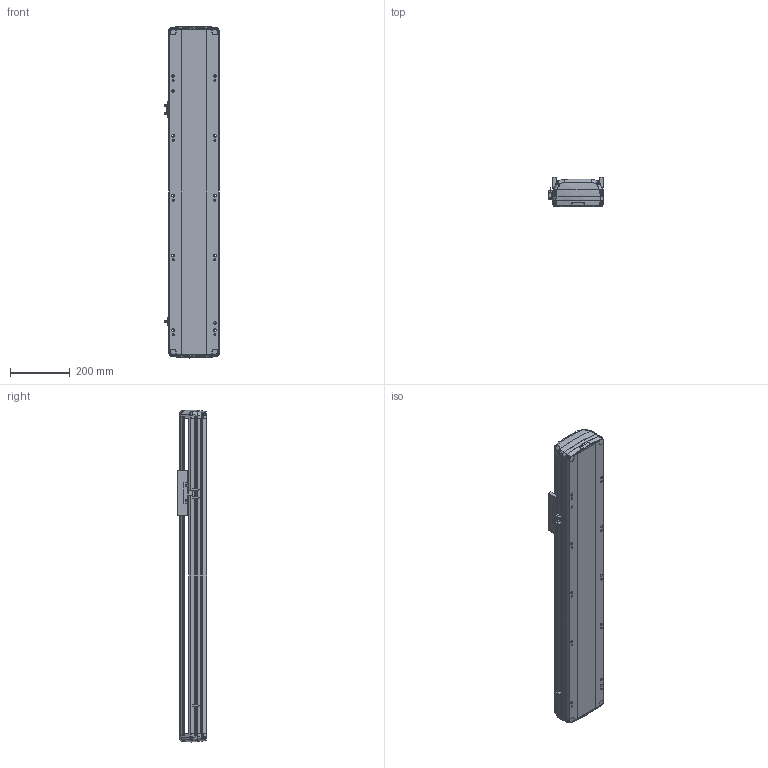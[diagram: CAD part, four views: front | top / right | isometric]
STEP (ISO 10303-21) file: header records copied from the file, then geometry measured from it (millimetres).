
FILE_DESCRIPTION (( 'STEP AP214' ), '1' );
FILE_NAME ('RTH17-XX-700-B-M40-C4.STEP', '2025-10-24T08:36:28', ( '' ), ( '' ), 'SwSTEP 2.0', 'SolidWorks 2018', '' );
FILE_SCHEMA (( 'AUTOMOTIVE_DESIGN' ));
Length unit declared in the file: millimetre
Products named in the file (7): N_RTH17-M-007上盖^RTH17-XX-XX-B-M40-C4（方程式）; N_RTH17-GY-001P^RTH17-XX-XX-B-M40-C4（方程式）; N_RTH17-M-011底座^RTH17-XX-XX-B-M40-C4（方程式）; N_RTH17-E-004丝杆螺母连接座^RTH17-XX-XX-B-M40-C4（方程式）; RTH17-XX-700-B-M40-C4; N_OMRON EE-SX672 換覜ん^RTH17-XX-XX-B-M40-C4ㄗ源最宒ㄘ; N_RTH-L-012 感应片(外置)^RTH17-XX-XX-B-M40-C4（方程式）
Assembly tree (9 placements, depth 2):
  RTH17-XX-700-B-M40-C4
    N_RTH17-M-011底座^RTH17-XX-XX-B-M40-C4（方程式）
    N_RTH17-M-007上盖^RTH17-XX-XX-B-M40-C4（方程式）
    N_OMRON EE-SX672 換覜ん^RTH17-XX-XX-B-M40-C4ㄗ源最宒ㄘ  x3
    N_RTH-L-012 感应片(外置)^RTH17-XX-XX-B-M40-C4（方程式）
    N_RTH17-E-004丝杆螺母连接座^RTH17-XX-XX-B-M40-C4（方程式）
    N_RTH17-GY-001P^RTH17-XX-XX-B-M40-C4（方程式）  x2
Bounding box: 183.5 x 97 x 1109.88 mm (x, y, z)
Volume: 8187811.4 mm3; surface area: 1142422.6 mm2
Topology: 7 solids, 11 shells, 1720 faces, 4826 edges, 3134 vertices
Faces by surface type: plane 809, cylinder 445, bspline 420, cone 28, torus 18
Entity records: 40278 total; most frequent: CARTESIAN_POINT 16789, ORIENTED_EDGE 5156, DIRECTION 4066, EDGE_CURVE 2582, VERTEX_POINT 1688, LINE 1418, VECTOR 1418, AXIS2_PLACEMENT_3D 1324
